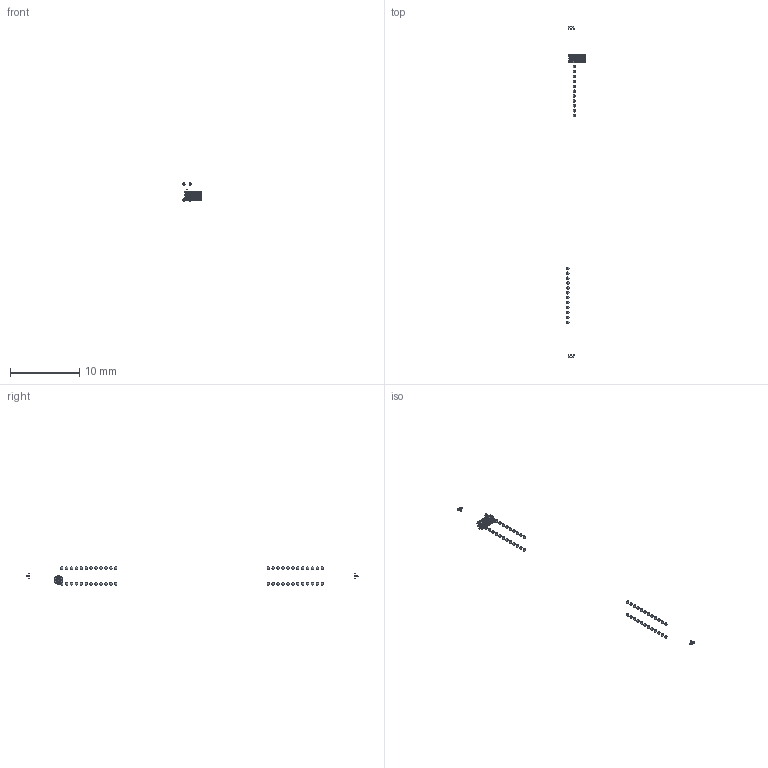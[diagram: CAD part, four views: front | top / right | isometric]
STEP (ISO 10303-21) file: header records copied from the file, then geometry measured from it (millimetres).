
FILE_DESCRIPTION((''),'2;1');
FILE_NAME('OPO_52.227.30.step','2017-04-21T18:23:35',(''),(''),'Mechanical Desktop 2010','Mechanical Desktop 2010',', , ');
FILE_SCHEMA(('CONFIG_CONTROL_DESIGN'));
Length unit declared in the file: millimetre
Products named in the file (1): Product
Bounding box: 2.73 x 47.96 x 2.63 mm (x, y, z)
Surface area: 25.4 mm2 (no closed solid volume)
Topology: 0 solids, 0 shells, 202 faces, 4322 edges, 7420 vertices
Faces by surface type: bspline 202
Entity records: 133329 total; most frequent: CARTESIAN_POINT 86473, QUASI_UNIFORM_CURVE 8543, PCURVE 7304, COMPOSITE_CURVE_SEGMENT 7304, DIRECTION 5368, TRIMMED_CURVE 3977, VECTOR 3036, LINE 3036
